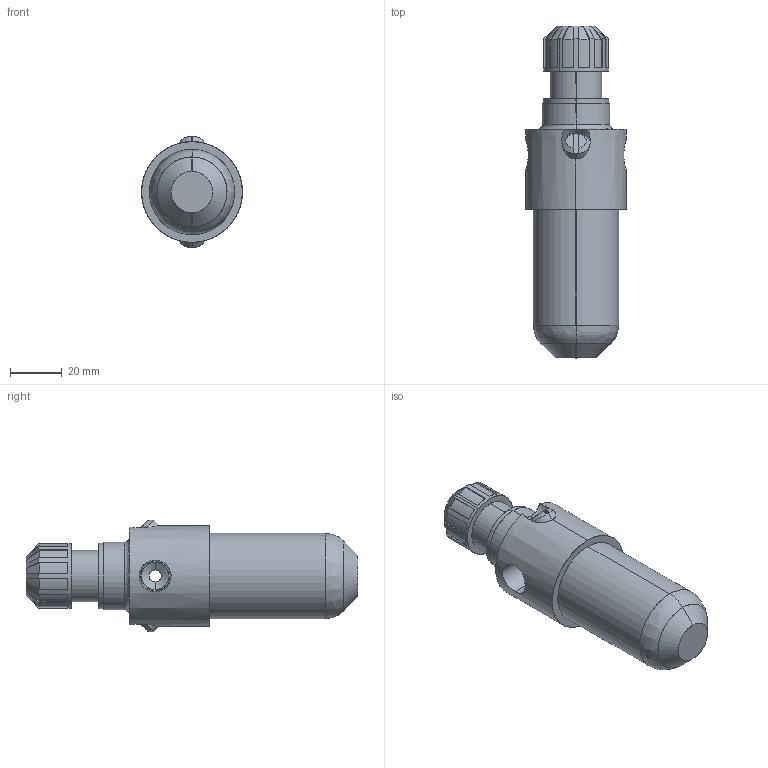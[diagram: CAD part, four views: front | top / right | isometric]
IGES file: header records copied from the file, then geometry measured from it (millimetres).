
Start section: SolidWorks IGES file using analytic representation for surfaces
Global section: file name: D:\Custom\3D繪製\FRL\L508\L508-02.IGS,1; native system: 5HSolidWorks 2014; preprocessor: SolidWorks 2014; author: Chieh_Lu; date: 160115.022428; units: millimetre
Bounding box: 39 x 128.5 x 43.13 mm (x, y, z)
Surface area: 20423.1 mm2 (no closed solid volume)
Topology: 0 solids, 0 shells, 169 faces, 1966 edges, 1966 vertices
Faces by surface type: bspline 105, revolution 64
